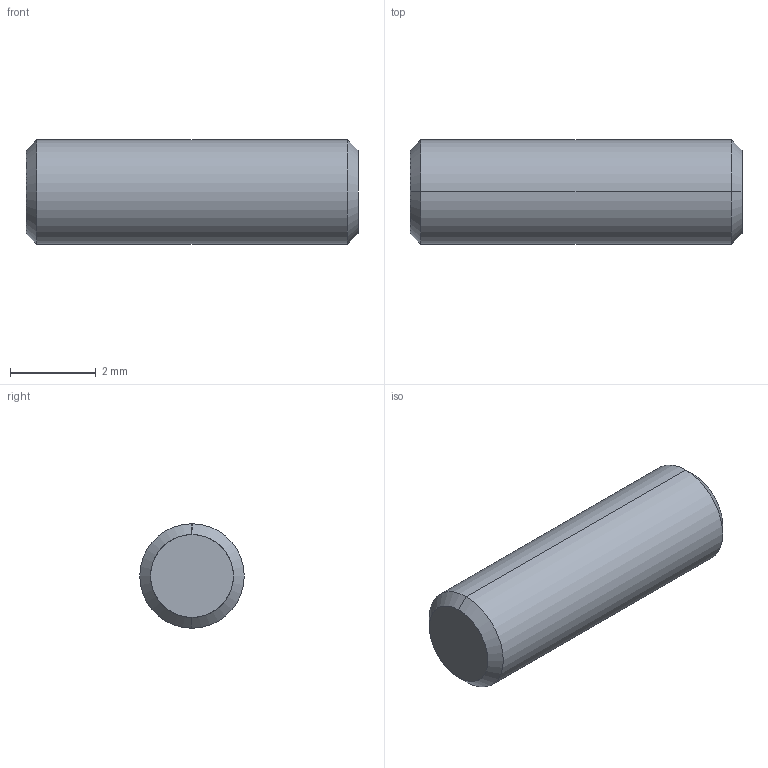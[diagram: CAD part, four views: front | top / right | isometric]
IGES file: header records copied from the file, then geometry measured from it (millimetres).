
Start section: SolidWorks IGES file using analytic representation for surfaces
Global section: file name: \\PSSILO\catalogs\CONTENTCENTRAL\Hammer Strut Pin\Cache\D16D5B3B-E833-4DDE-B8ED-5BBE5DAE6DA9.IGS; native system: SolidWorks 2009; preprocessor: SolidWorks 2009; author: partstream; date: 090731.225032; units: inch
Bounding box: 7.75 x 2.44 x 2.44 mm (x, y, z)
Surface area: 66.2 mm2 (no closed solid volume)
Topology: 0 solids, 0 shells, 8 faces, 88 edges, 88 vertices
Faces by surface type: revolution 6, bspline 2
